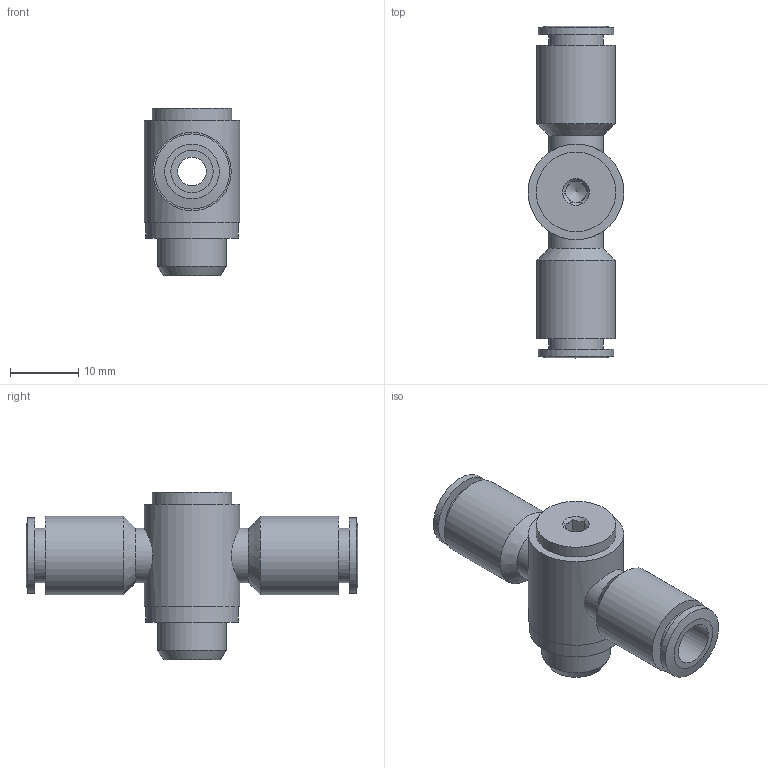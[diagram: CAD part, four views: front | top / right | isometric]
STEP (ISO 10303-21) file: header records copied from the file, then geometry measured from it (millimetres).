
FILE_DESCRIPTION((''),'2;1');
FILE_NAME('C:\Documents and Settings\rivolro1\Documenti\copia di Raccordi\PLASTICA\T16XXXX\T160618.stp','2007-10-31T15:06:30',('Rivolro1'),(''),'Autodesk Inventor 2008','Autodesk Inventor 2008','');
FILE_SCHEMA(('AUTOMOTIVE_DESIGN { 1 0 10303 214 1 1 1 1 }'));
Length unit declared in the file: millimetre
Products named in the file (1): T160618
Bounding box: 14 x 48.6 x 24.5 mm (x, y, z)
Volume: 5160.2 mm3; surface area: 3656.9 mm2
Topology: 1 solids, 1 shells, 48 faces, 101 edges, 65 vertices
Faces by surface type: plane 23, cylinder 13, bspline 7, cone 5
Full cylindrical faces by diameter (mm): 4.2 x1, 8 x4, 10 x1, 11 x2, 11.5 x2, 11.667 x1, 13.6 x1, 14 x1
Entity records: 1380 total; most frequent: CARTESIAN_POINT 438, DIRECTION 180, ORIENTED_EDGE 142, EDGE_LOOP 84, AXIS2_PLACEMENT_3D 81, EDGE_CURVE 71, VERTEX_POINT 59, FACE_OUTER_BOUND 48
